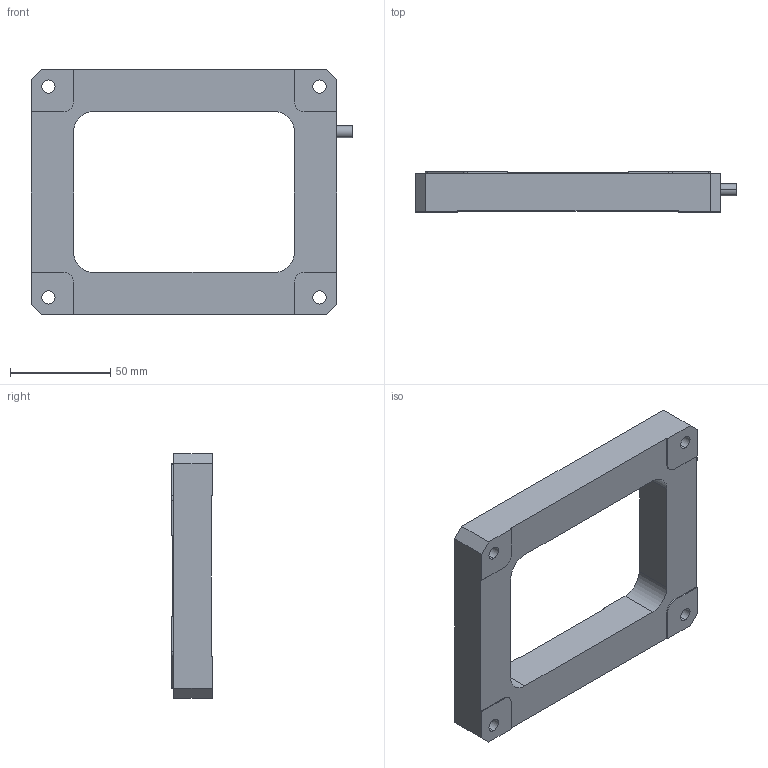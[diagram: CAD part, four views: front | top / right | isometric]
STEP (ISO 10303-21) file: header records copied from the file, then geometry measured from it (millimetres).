
FILE_DESCRIPTION (( 'STEP AP214' ), '1' );
FILE_NAME ('S54.T1S-C三维尺寸图-王洋-24.09.03.STEP', '2024-09-03T02:17:19', ( '' ), ( '' ), 'SwSTEP 2.0', 'SolidWorks 2016', '' );
FILE_SCHEMA (( 'AUTOMOTIVE_DESIGN' ));
Length unit declared in the file: millimetre
Products named in the file (1): S54.T1S-C三维尺寸图-王洋-24.09.03
Bounding box: 160 x 20 x 122 mm (x, y, z)
Volume: 182313.1 mm3; surface area: 39334.7 mm2
Topology: 1 solids, 1 shells, 137 faces, 366 edges, 224 vertices
Faces by surface type: cylinder 58, plane 55, cone 24
Entity records: 5063 total; most frequent: DIRECTION 734, CARTESIAN_POINT 704, ORIENTED_EDGE 684, EDGE_CURVE 342, AXIS2_PLACEMENT_3D 254, LINE 226, VECTOR 226, VERTEX_POINT 224
